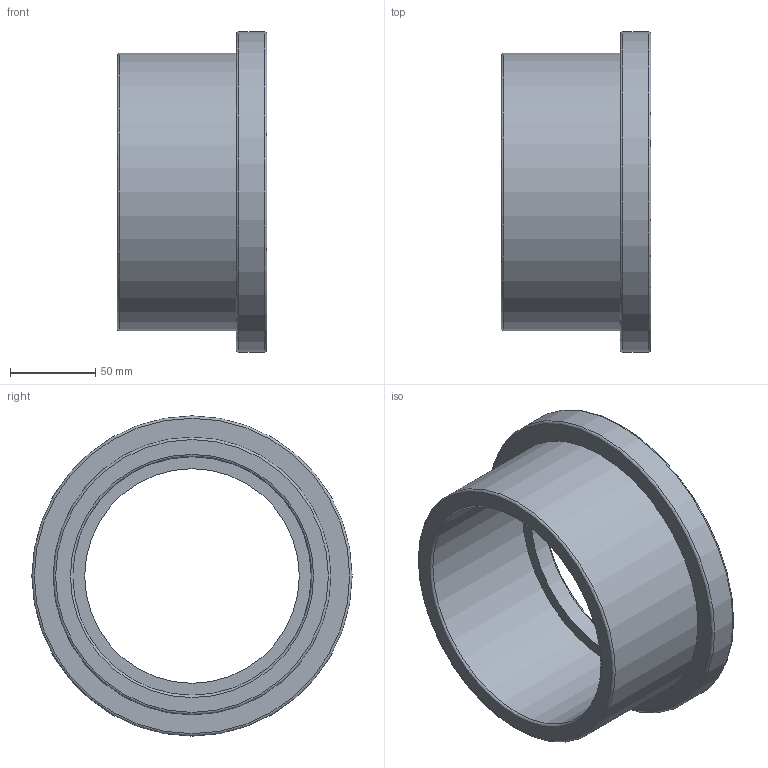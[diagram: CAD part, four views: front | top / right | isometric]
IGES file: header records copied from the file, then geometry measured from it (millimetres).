
Global section: file name: 055000140.ipt; native system: Autodesk Inventor 2015; preprocessor: unknown; author: KIM; date: 20171207.165719; units: millimetre
Bounding box: 88 x 188 x 188 mm (x, y, z)
Volume: 614981.3 mm3; surface area: 117854.5 mm2
Topology: 1 solids, 1 shells, 21 faces, 60 edges, 45 vertices
Faces by surface type: revolution 12, plane 6, cylinder 3
Full cylindrical faces by diameter (mm): 147.7 x1, 163 x1, 188 x1
